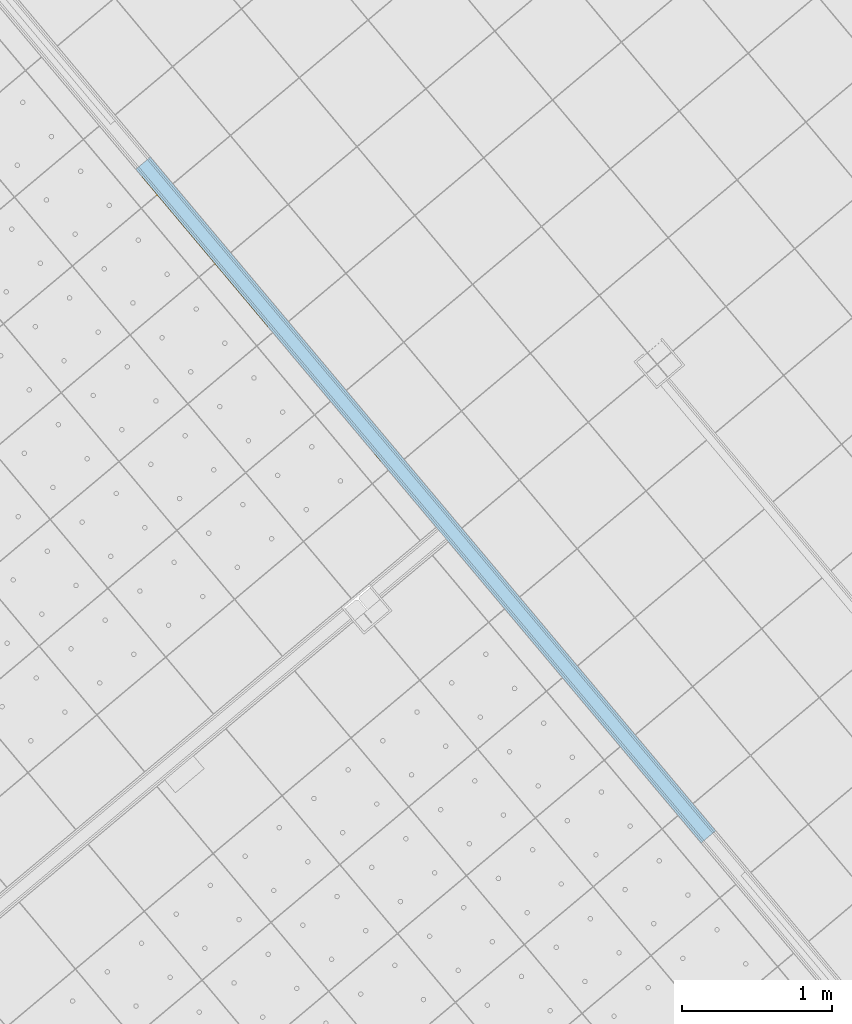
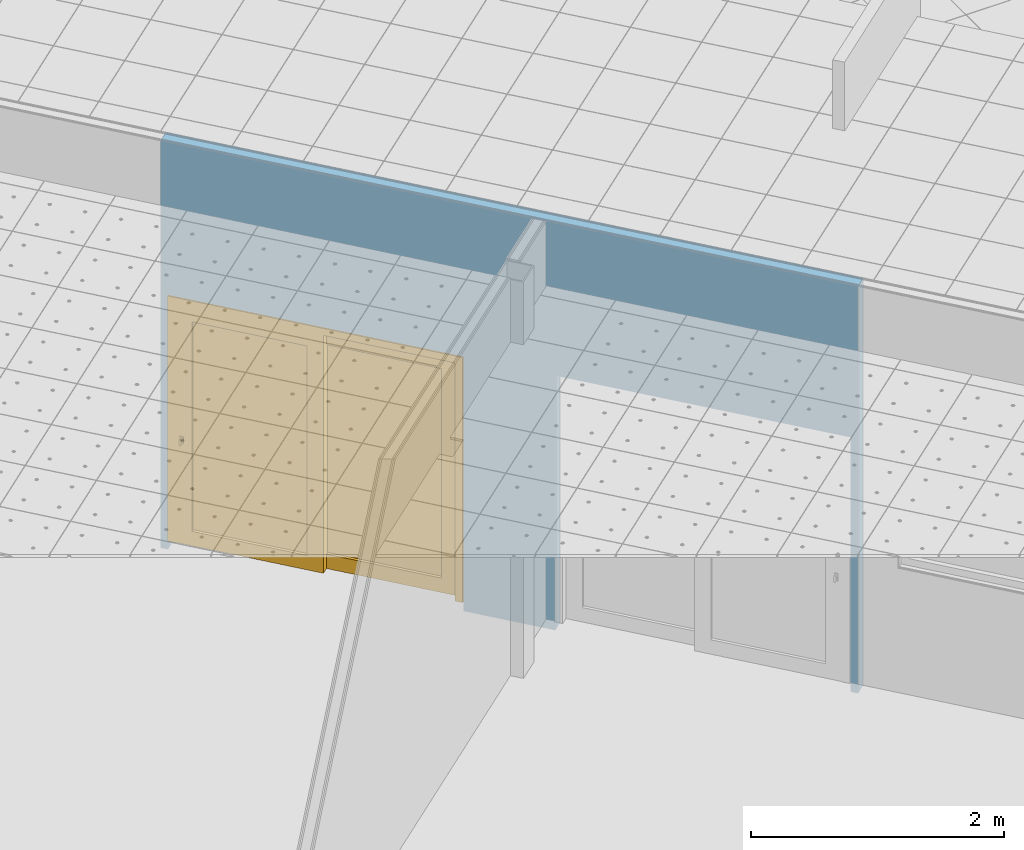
# One storey, part 42 of 321: 1 door, 2 openings, 1 element without a shape of its own, plus 5 elements that do not belong to this part.
"""IFC2X3 building model written with IfcOpenShell, lengths in millimetres."""

from ifc_helpers import new_model, entity, si_unit, converted_unit, derived_unit, money_unit, direction, frame, origin_with_axes, place, context, subcontext, project, spatial, open_shell, faceted_brep, surface_model, source, transform, mapped, material, type_object, type_shapes, element, fill, aggregate, save


model = new_model("IFC2X3")

# Units and contexts
model_context = context("Model", 3, precision=0.01, world=origin_with_axes(), true_north=direction((0.0, 1.0)))
plan_context = context("Plan", 3, precision=0.01, world=origin_with_axes(), true_north=direction((0.0, 1.0)))
body_context = subcontext(model_context, "Body", "Model", "MODEL_VIEW")
ifc_project = project(units=[si_unit("LENGTHUNIT", "METRE", prefix="MILLI"), si_unit("AREAUNIT", "SQUARE_METRE"), si_unit("VOLUMEUNIT", "CUBIC_METRE"), converted_unit("PLANEANGLEUNIT", "DEGREE", entity("IfcPlaneAngleMeasure", 0.0174532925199), si_unit("PLANEANGLEUNIT", "RADIAN"), dimensions=[0, 0, 0, 0, 0, 0, 0]), money_unit("EUR"), converted_unit("TIMEUNIT", "Year", entity("IfcTimeMeasure", 31556926.0), si_unit("TIMEUNIT", "SECOND"), dimensions=[0, 0, 1, 0, 0, 0, 0]), si_unit("MASSUNIT", "GRAM", prefix="KILO"), si_unit("THERMODYNAMICTEMPERATUREUNIT", "DEGREE_CELSIUS"), si_unit("LUMINOUSINTENSITYUNIT", "LUMEN"), si_unit("ENERGYUNIT", "JOULE", prefix="MEGA"), derived_unit("THERMALCONDUCTANCEUNIT", [(si_unit("POWERUNIT", "WATT"), 1), (si_unit("LENGTHUNIT", "METRE"), -1), (si_unit("THERMODYNAMICTEMPERATUREUNIT", "KELVIN"), -1)]), derived_unit("SPECIFICHEATCAPACITYUNIT", [(si_unit("ENERGYUNIT", "JOULE"), 1), (si_unit("MASSUNIT", "GRAM", prefix="KILO"), -1), (si_unit("THERMODYNAMICTEMPERATUREUNIT", "KELVIN"), -1)]), derived_unit("MASSDENSITYUNIT", [(si_unit("MASSUNIT", "GRAM", prefix="KILO"), 1), (si_unit("VOLUMEUNIT", "CUBIC_METRE"), -1)])], contexts=[model_context, plan_context])

# Site, building, storey
site_placement = place(None, origin_with_axes())
site = spatial("IfcSite", under=ifc_project, at=site_placement, Name="Fortuinstraat Woensdrecht", CompositionType="ELEMENT")
building_placement = place(site_placement, origin_with_axes())
building = spatial("IfcBuilding", under=site, at=building_placement, Name="IKC Fortuna", CompositionType="ELEMENT")
storey_placement = place(building_placement, frame((0.0, 0.0, 4000.0), z_axis=(0.0, 0.0, 1.0), x_axis=(1.0, 0.0, 0.0)))
storey = spatial("IfcBuildingStorey", under=building, at=storey_placement, Name="01 eerste verdieping", CompositionType="ELEMENT", Elevation=4000.0)

# Door
door_style = type_object("IfcDoorStyle", Name="DSn 25", ConstructionType="NOTDEFINED", OperationType="USERDEFINED", ParameterTakesPrecedence=False, Sizeable=False)
shared_shape = source(origin_with_axes(), body_context, "Body", "SurfaceModel", [
    faceted_brep([(-1242.5, 0.0, 0.0), (-1175.5, 0.0, 0.0), (-1175.5, -139.0, 0.0), (-1242.5, -139.0, 0.0), (-1242.5, 0.0, 2300.0), (-1175.5, 0.0, 2300.0), (-1175.5, -139.0, 2300.0), (-1242.5, -139.0, 2300.0)], [[[0, 1, 2, 3]], [[0, 4, 5, 1]], [[1, 5, 6, 2]], [[3, 2, 6, 7]], [[4, 0, 3, 7]], [[5, 4, 7, 6]]]),
    faceted_brep([(1242.5, 0.0, 0.0), (1242.5, 0.0, 2300.0), (1242.5, -139.0, 2300.0), (1242.5, -139.0, 0.0), (1175.5, 0.0, 0.0), (1175.5, 0.0, 2300.0), (1175.5, -139.0, 2300.0), (1175.5, -139.0, 0.0)], [[[0, 1, 2, 3]], [[0, 4, 5, 1]], [[1, 5, 6, 2]], [[3, 2, 6, 7]], [[4, 0, 3, 7]], [[5, 4, 7, 6]]]),
    faceted_brep([(-1242.5, 0.0, 2367.0), (-1242.5, 0.0, 2300.0), (-1242.5, -139.0, 2300.0), (-1242.5, -139.0, 2367.0), (1242.5, 0.0, 2367.0), (1242.5, 0.0, 2300.0), (1175.5, 0.0, 2300.0), (-1175.5, 0.0, 2300.0), (-1175.5, -139.0, 2300.0), (1175.5, -139.0, 2300.0), (1242.5, -139.0, 2300.0), (1242.5, -139.0, 2367.0)], [[[0, 1, 2, 3]], [[0, 4, 5, 6, 7, 1]], [[1, 7, 8, 2]], [[3, 2, 8, 9, 10, 11]], [[4, 0, 3, 11]], [[5, 4, 11, 10]], [[6, 5, 10, 9]], [[7, 6, 9, 8]]]),
    faceted_brep([(1175.5, 0.0, 139.0), (1175.5, -64.5, 139.0), (1036.5, -64.5, 139.0), (1036.5, 0.0, 139.0), (1175.5, 0.0, 2161.0), (1175.5, -64.5, 2161.0), (1036.5, -64.5, 2161.0), (1036.5, 0.0, 2161.0)], [[[0, 1, 2, 3]], [[4, 5, 1, 0]], [[1, 5, 6, 2]], [[3, 2, 6, 7]], [[0, 3, 7, 4]], [[7, 6, 5, 4]]]),
    faceted_brep([(-69.5, 0.0, 139.0), (-69.5, -64.5, 139.0), (-69.5, -64.5, 2161.0), (-69.5, 0.0, 2161.0), (69.5, 0.0, 139.0), (69.5, -64.5, 139.0), (69.5, -64.5, 2161.0), (69.5, 0.0, 2161.0)], [[[0, 1, 2, 3]], [[4, 5, 1, 0]], [[1, 5, 6, 2]], [[3, 2, 6, 7]], [[0, 3, 7, 4]], [[7, 6, 5, 4]]]),
    faceted_brep([(1175.5, 0.0, 0.0), (1175.5, -64.5, 0.0), (-69.5, -64.5, 0.0), (-69.5, 0.0, 0.0), (1175.5, 0.0, 139.0), (1175.5, -64.5, 139.0), (1036.5, -64.5, 139.0), (69.5, -64.5, 139.0), (-69.5, -64.5, 139.0), (-69.5, 0.0, 139.0), (69.5, 0.0, 139.0), (1036.5, 0.0, 139.0)], [[[0, 1, 2, 3]], [[4, 5, 1, 0]], [[1, 5, 6, 7, 8, 2]], [[3, 2, 8, 9]], [[0, 3, 9, 10, 11, 4]], [[11, 6, 5, 4]], [[10, 7, 6, 11]], [[9, 8, 7, 10]]]),
    faceted_brep([(1175.5, 0.0, 2300.0), (1175.5, -64.5, 2300.0), (1175.5, -64.5, 2161.0), (1175.5, 0.0, 2161.0), (-69.5, 0.0, 2300.0), (-69.5, -64.5, 2300.0), (-69.5, -64.5, 2161.0), (69.5, -64.5, 2161.0), (1036.5, -64.5, 2161.0), (1036.5, 0.0, 2161.0), (69.5, 0.0, 2161.0), (-69.5, 0.0, 2161.0)], [[[0, 1, 2, 3]], [[4, 5, 1, 0]], [[1, 5, 6, 7, 8, 2]], [[3, 2, 8, 9]], [[0, 3, 9, 10, 11, 4]], [[11, 6, 5, 4]], [[10, 7, 6, 11]], [[9, 8, 7, 10]]]),
    surface_model("IfcShellBasedSurfaceModel", [(1036.5, -26.25, 139.0), (69.5, -26.25, 139.0), (69.5, -26.25, 2161.0), (1036.5, -26.25, 2161.0)], [open_shell([[[0, 1, 2, 3]]])]),
    surface_model("IfcShellBasedSurfaceModel", [(1036.5, -38.25, 139.0), (1036.5, -38.25, 2161.0), (69.5, -38.25, 2161.0), (69.5, -38.25, 139.0)], [open_shell([[[0, 1, 2, 3]]])]),
    faceted_brep([(-1110.5, -134.0, 965.0), (-1110.5, -134.0, 1035.0), (-1110.5, -144.0, 1035.0), (-1110.5, -144.0, 965.0), (-1140.5, -134.0, 965.0), (-1140.5, -134.0, 1035.0), (-1140.5, -144.0, 1035.0), (-1140.5, -144.0, 965.0)], [[[0, 1, 2, 3]], [[0, 4, 5, 1]], [[1, 5, 6, 2]], [[3, 2, 6, 7]], [[4, 0, 3, 7]], [[5, 4, 7, 6]]]),
    faceted_brep([(-1124.13436775, -144.0, 1006.86549696), (-1122.82121597, -144.0, 1006.46715673), (-1121.61100837, -144.0, 1005.82028729), (-1120.55025253, -144.0, 1004.94974747), (-1119.67971271, -144.0, 1003.88899163), (-1119.03284327, -144.0, 1002.67878403), (-1118.63450304, -144.0, 1001.36563225), (-1118.5, -144.0, 1000.0), (-1118.63450304, -144.0, 998.634367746), (-1119.03284327, -144.0, 997.321215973), (-1119.67971271, -144.0, 996.111008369), (-1120.55025253, -144.0, 995.050252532), (-1121.61100837, -144.0, 994.179712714), (-1122.82121597, -144.0, 993.532843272), (-1124.13436775, -144.0, 993.134503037), (-1125.5, -144.0, 993.0), (-1126.86563225, -144.0, 993.134503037), (-1128.17878403, -144.0, 993.532843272), (-1129.38899163, -144.0, 994.179712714), (-1130.44974747, -144.0, 995.050252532), (-1131.32028729, -144.0, 996.111008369), (-1131.96715673, -144.0, 997.321215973), (-1132.36549696, -144.0, 998.634367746), (-1132.5, -144.0, 1000.0), (-1132.36549696, -144.0, 1001.36563225), (-1131.96715673, -144.0, 1002.67878403), (-1131.32028729, -144.0, 1003.88899163), (-1130.44974747, -144.0, 1004.94974747), (-1129.38899163, -144.0, 1005.82028729), (-1128.17878403, -144.0, 1006.46715673), (-1126.86563225, -144.0, 1006.86549696), (-1125.5, -144.0, 1007.0), (-1124.13436775, -159.0, 1006.86549696), (-1122.82121597, -159.0, 1006.46715673), (-1121.61100837, -159.0, 1005.82028729), (-1120.55025253, -159.0, 1004.94974747), (-1119.67971271, -159.0, 1003.88899163), (-1119.03284327, -159.0, 1002.67878403), (-1118.63450304, -159.0, 1001.36563225), (-1118.5, -159.0, 1000.0), (-1118.63450304, -159.0, 998.634367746), (-1119.03284327, -159.0, 997.321215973), (-1119.67971271, -159.0, 996.111008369), (-1120.55025253, -159.0, 995.050252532), (-1121.61100837, -159.0, 994.179712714), (-1122.82121597, -159.0, 993.532843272), (-1124.13436775, -159.0, 993.134503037), (-1125.5, -159.0, 993.0), (-1126.86563225, -159.0, 993.134503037), (-1128.17878403, -159.0, 993.532843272), (-1129.38899163, -159.0, 994.179712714), (-1130.44974747, -159.0, 995.050252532), (-1131.32028729, -159.0, 996.111008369), (-1131.96715673, -159.0, 997.321215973), (-1132.36549696, -159.0, 998.634367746), (-1132.5, -159.0, 1000.0), (-1132.36549696, -159.0, 1001.36563225), (-1131.96715673, -159.0, 1002.67878403), (-1131.32028729, -159.0, 1003.88899163), (-1130.44974747, -159.0, 1004.94974747), (-1129.38899163, -159.0, 1005.82028729), (-1128.17878403, -159.0, 1006.46715673), (-1126.86563225, -159.0, 1006.86549696), (-1125.5, -159.0, 1007.0)], [[[0, 1, 2, 3, 4, 5, 6, 7, 8, 9, 10, 11, 12, 13, 14, 15, 16, 17, 18, 19, 20, 21, 22, 23, 24, 25, 26, 27, 28, 29, 30, 31]], [[1, 0, 32, 33]], [[2, 1, 33, 34]], [[3, 2, 34, 35]], [[4, 3, 35, 36]], [[5, 4, 36, 37]], [[6, 5, 37, 38]], [[7, 6, 38, 39]], [[8, 7, 39, 40]], [[9, 8, 40, 41]], [[10, 9, 41, 42]], [[11, 10, 42, 43]], [[12, 11, 43, 44]], [[13, 12, 44, 45]], [[14, 13, 45, 46]], [[15, 14, 46, 47]], [[16, 15, 47, 48]], [[17, 16, 48, 49]], [[18, 17, 49, 50]], [[19, 18, 50, 51]], [[20, 19, 51, 52]], [[21, 20, 52, 53]], [[22, 21, 53, 54]], [[23, 22, 54, 55]], [[24, 23, 55, 56]], [[25, 24, 56, 57]], [[26, 25, 57, 58]], [[27, 26, 58, 59]], [[28, 27, 59, 60]], [[29, 28, 60, 61]], [[30, 29, 61, 62]], [[31, 30, 62, 63]], [[0, 31, 63, 32]], [[32, 63, 62, 61, 60, 59, 58, 57, 56, 55, 54, 53, 52, 51, 50, 49, 48, 47, 46, 45, 44, 43, 42, 41, 40, 39, 38, 37, 36, 35, 34, 33]]]),
    faceted_brep([(-1115.5, -159.0, 990.0), (-1115.5, -159.0, 1010.0), (-1115.5, -169.0, 1010.0), (-1115.5, -169.0, 990.0), (-1135.5, -159.0, 990.0), (-1135.5, -159.0, 1010.0), (-1135.5, -169.0, 1010.0), (-1135.5, -169.0, 990.0)], [[[0, 1, 2, 3]], [[0, 4, 5, 1]], [[1, 5, 6, 2]], [[3, 2, 6, 7]], [[4, 0, 3, 7]], [[5, 4, 7, 6]]]),
    faceted_brep([(-1115.5, -169.0, 990.0), (-1135.5, -169.0, 990.0), (-1130.5, -167.0, 965.0), (-1120.5, -167.0, 965.0), (-1115.5, -159.0, 990.0), (-1135.5, -159.0, 990.0), (-1130.5, -163.0, 965.0), (-1120.5, -163.0, 965.0)], [[[0, 1, 2, 3]], [[0, 4, 5, 1]], [[1, 5, 6, 2]], [[3, 2, 6, 7]], [[4, 0, 3, 7]], [[5, 4, 7, 6]]]),
    faceted_brep([(-1115.5, -169.0, 1010.0), (-1120.5, -167.0, 1035.0), (-1130.5, -167.0, 1035.0), (-1135.5, -169.0, 1010.0), (-1115.5, -159.0, 1010.0), (-1120.5, -163.0, 1035.0), (-1130.5, -163.0, 1035.0), (-1135.5, -159.0, 1010.0)], [[[0, 1, 2, 3]], [[4, 5, 1, 0]], [[1, 5, 6, 2]], [[3, 2, 6, 7]], [[0, 3, 7, 4]], [[7, 6, 5, 4]]]),
    faceted_brep([(-1110.5, -69.5, 965.0), (-1110.5, -59.5, 965.0), (-1110.5, -59.5, 1035.0), (-1110.5, -69.5, 1035.0), (-1140.5, -69.5, 965.0), (-1140.5, -59.5, 965.0), (-1140.5, -59.5, 1035.0), (-1140.5, -69.5, 1035.0)], [[[0, 1, 2, 3]], [[4, 5, 1, 0]], [[1, 5, 6, 2]], [[3, 2, 6, 7]], [[0, 3, 7, 4]], [[7, 6, 5, 4]]]),
    faceted_brep([(-1124.13436775, -59.5, 1006.86549696), (-1125.5, -59.5, 1007.0), (-1126.86563225, -59.5, 1006.86549696), (-1128.17878403, -59.5, 1006.46715673), (-1129.38899163, -59.5, 1005.82028729), (-1130.44974747, -59.5, 1004.94974747), (-1131.32028729, -59.5, 1003.88899163), (-1131.96715673, -59.5, 1002.67878403), (-1132.36549696, -59.5, 1001.36563225), (-1132.5, -59.5, 1000.0), (-1132.36549696, -59.5, 998.634367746), (-1131.96715673, -59.5, 997.321215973), (-1131.32028729, -59.5, 996.111008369), (-1130.44974747, -59.5, 995.050252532), (-1129.38899163, -59.5, 994.179712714), (-1128.17878403, -59.5, 993.532843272), (-1126.86563225, -59.5, 993.134503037), (-1125.5, -59.5, 993.0), (-1124.13436775, -59.5, 993.134503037), (-1122.82121597, -59.5, 993.532843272), (-1121.61100837, -59.5, 994.179712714), (-1120.55025253, -59.5, 995.050252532), (-1119.67971271, -59.5, 996.111008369), (-1119.03284327, -59.5, 997.321215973), (-1118.63450304, -59.5, 998.634367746), (-1118.5, -59.5, 1000.0), (-1118.63450304, -59.5, 1001.36563225), (-1119.03284327, -59.5, 1002.67878403), (-1119.67971271, -59.5, 1003.88899163), (-1120.55025253, -59.5, 1004.94974747), (-1121.61100837, -59.5, 1005.82028729), (-1122.82121597, -59.5, 1006.46715673), (-1124.13436775, -44.5, 1006.86549696), (-1125.5, -44.5, 1007.0), (-1126.86563225, -44.5, 1006.86549696), (-1128.17878403, -44.5, 1006.46715673), (-1129.38899163, -44.5, 1005.82028729), (-1130.44974747, -44.5, 1004.94974747), (-1131.32028729, -44.5, 1003.88899163), (-1131.96715673, -44.5, 1002.67878403), (-1132.36549696, -44.5, 1001.36563225), (-1132.5, -44.5, 1000.0), (-1132.36549696, -44.5, 998.634367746), (-1131.96715673, -44.5, 997.321215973), (-1131.32028729, -44.5, 996.111008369), (-1130.44974747, -44.5, 995.050252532), (-1129.38899163, -44.5, 994.179712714), (-1128.17878403, -44.5, 993.532843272), (-1126.86563225, -44.5, 993.134503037), (-1125.5, -44.5, 993.0), (-1124.13436775, -44.5, 993.134503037), (-1122.82121597, -44.5, 993.532843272), (-1121.61100837, -44.5, 994.179712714), (-1120.55025253, -44.5, 995.050252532), (-1119.67971271, -44.5, 996.111008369), (-1119.03284327, -44.5, 997.321215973), (-1118.63450304, -44.5, 998.634367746), (-1118.5, -44.5, 1000.0), (-1118.63450304, -44.5, 1001.36563225), (-1119.03284327, -44.5, 1002.67878403), (-1119.67971271, -44.5, 1003.88899163), (-1120.55025253, -44.5, 1004.94974747), (-1121.61100837, -44.5, 1005.82028729), (-1122.82121597, -44.5, 1006.46715673)], [[[0, 1, 2, 3, 4, 5, 6, 7, 8, 9, 10, 11, 12, 13, 14, 15, 16, 17, 18, 19, 20, 21, 22, 23, 24, 25, 26, 27, 28, 29, 30, 31]], [[0, 32, 33, 1]], [[1, 33, 34, 2]], [[2, 34, 35, 3]], [[3, 35, 36, 4]], [[4, 36, 37, 5]], [[5, 37, 38, 6]], [[6, 38, 39, 7]], [[7, 39, 40, 8]], [[8, 40, 41, 9]], [[9, 41, 42, 10]], [[10, 42, 43, 11]], [[11, 43, 44, 12]], [[12, 44, 45, 13]], [[13, 45, 46, 14]], [[14, 46, 47, 15]], [[15, 47, 48, 16]], [[16, 48, 49, 17]], [[17, 49, 50, 18]], [[18, 50, 51, 19]], [[19, 51, 52, 20]], [[20, 52, 53, 21]], [[21, 53, 54, 22]], [[22, 54, 55, 23]], [[23, 55, 56, 24]], [[24, 56, 57, 25]], [[25, 57, 58, 26]], [[26, 58, 59, 27]], [[27, 59, 60, 28]], [[28, 60, 61, 29]], [[29, 61, 62, 30]], [[30, 62, 63, 31]], [[31, 63, 32, 0]], [[32, 63, 62, 61, 60, 59, 58, 57, 56, 55, 54, 53, 52, 51, 50, 49, 48, 47, 46, 45, 44, 43, 42, 41, 40, 39, 38, 37, 36, 35, 34, 33]]]),
    faceted_brep([(-1115.5, -44.5, 990.0), (-1115.5, -34.5, 990.0), (-1115.5, -34.5, 1010.0), (-1115.5, -44.5, 1010.0), (-1135.5, -44.5, 990.0), (-1135.5, -34.5, 990.0), (-1135.5, -34.5, 1010.0), (-1135.5, -44.5, 1010.0)], [[[0, 1, 2, 3]], [[4, 5, 1, 0]], [[1, 5, 6, 2]], [[3, 2, 6, 7]], [[0, 3, 7, 4]], [[7, 6, 5, 4]]]),
    faceted_brep([(-1115.5, -34.5, 990.0), (-1120.5, -36.5, 965.0), (-1130.5, -36.5, 965.0), (-1135.5, -34.5, 990.0), (-1115.5, -44.5, 990.0), (-1120.5, -40.5, 965.0), (-1130.5, -40.5, 965.0), (-1135.5, -44.5, 990.0)], [[[0, 1, 2, 3]], [[4, 5, 1, 0]], [[1, 5, 6, 2]], [[3, 2, 6, 7]], [[0, 3, 7, 4]], [[7, 6, 5, 4]]]),
    faceted_brep([(-1115.5, -34.5, 1010.0), (-1135.5, -34.5, 1010.0), (-1130.5, -36.5, 1035.0), (-1120.5, -36.5, 1035.0), (-1115.5, -44.5, 1010.0), (-1135.5, -44.5, 1010.0), (-1130.5, -40.5, 1035.0), (-1120.5, -40.5, 1035.0)], [[[0, 1, 2, 3]], [[0, 4, 5, 1]], [[1, 5, 6, 2]], [[3, 2, 6, 7]], [[4, 0, 3, 7]], [[5, 4, 7, 6]]]),
    faceted_brep([(69.5, -69.5, 139.0), (69.5, -134.0, 139.0), (-69.5, -134.0, 139.0), (-69.5, -69.5, 139.0), (69.5, -69.5, 2161.0), (69.5, -134.0, 2161.0), (-69.5, -134.0, 2161.0), (-69.5, -69.5, 2161.0)], [[[0, 1, 2, 3]], [[4, 5, 1, 0]], [[1, 5, 6, 2]], [[3, 2, 6, 7]], [[0, 3, 7, 4]], [[7, 6, 5, 4]]]),
    faceted_brep([(-1175.5, -69.5, 139.0), (-1175.5, -134.0, 139.0), (-1175.5, -134.0, 2161.0), (-1175.5, -69.5, 2161.0), (-1036.5, -69.5, 139.0), (-1036.5, -134.0, 139.0), (-1036.5, -134.0, 2161.0), (-1036.5, -69.5, 2161.0)], [[[0, 1, 2, 3]], [[4, 5, 1, 0]], [[1, 5, 6, 2]], [[3, 2, 6, 7]], [[0, 3, 7, 4]], [[7, 6, 5, 4]]]),
    faceted_brep([(69.5, -69.5, 0.0), (69.5, -134.0, 0.0), (-1175.5, -134.0, 0.0), (-1175.5, -69.5, 0.0), (69.5, -69.5, 139.0), (69.5, -134.0, 139.0), (-69.5, -134.0, 139.0), (-1036.5, -134.0, 139.0), (-1175.5, -134.0, 139.0), (-1175.5, -69.5, 139.0), (-1036.5, -69.5, 139.0), (-69.5, -69.5, 139.0)], [[[0, 1, 2, 3]], [[4, 5, 1, 0]], [[1, 5, 6, 7, 8, 2]], [[3, 2, 8, 9]], [[0, 3, 9, 10, 11, 4]], [[11, 6, 5, 4]], [[10, 7, 6, 11]], [[9, 8, 7, 10]]]),
    faceted_brep([(69.5, -69.5, 2300.0), (69.5, -134.0, 2300.0), (69.5, -134.0, 2161.0), (69.5, -69.5, 2161.0), (-1175.5, -69.5, 2300.0), (-1175.5, -134.0, 2300.0), (-1175.5, -134.0, 2161.0), (-1036.5, -134.0, 2161.0), (-69.5, -134.0, 2161.0), (-69.5, -69.5, 2161.0), (-1036.5, -69.5, 2161.0), (-1175.5, -69.5, 2161.0)], [[[0, 1, 2, 3]], [[4, 5, 1, 0]], [[1, 5, 6, 7, 8, 2]], [[3, 2, 8, 9]], [[0, 3, 9, 10, 11, 4]], [[11, 6, 5, 4]], [[10, 7, 6, 11]], [[9, 8, 7, 10]]]),
    surface_model("IfcShellBasedSurfaceModel", [(-69.5, -95.75, 139.0), (-1036.5, -95.75, 139.0), (-1036.5, -95.75, 2161.0), (-69.5, -95.75, 2161.0)], [open_shell([[[0, 1, 2, 3]]])]),
    surface_model("IfcShellBasedSurfaceModel", [(-69.5, -107.75, 139.0), (-69.5, -107.75, 2161.0), (-1036.5, -107.75, 2161.0), (-1036.5, -107.75, 139.0)], [open_shell([[[0, 1, 2, 3]]])]),
])
type_shapes(door_style, [shared_shape])
wall_placement = place(storey_placement, frame((12856.7077015, 5400.95257994, 1360.0), z_axis=(0.0, 0.0, 1.0), x_axis=(0.642787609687, -0.766044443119, 0.0)))
opening_2_placement = place(wall_placement, frame((1305.0, 0.0, 90.0), z_axis=(0.0, 0.0, 1.0), x_axis=(1.0, 0.0, 0.0)))
door_placement = place(opening_2_placement, frame((-1242.5, 0.0, 0.0), z_axis=(0.0, 0.0, 1.0), x_axis=(1.0, 0.0, 0.0)))
door = element("IfcDoor", 1, at=door_placement, inside=storey, type_object=door_style, Name="32_Deur_h.03", ObjectType="DOOR", OverallHeight=2367.0, OverallWidth=2485.0, context=body_context, shape_type="MappedRepresentation", body=[
    mapped(shared_shape, transform((1242.5, 62.5, 0.0))),
])

# Wall, openings
wall_type = type_object("IfcWallType", Name="MS125 2.75.2A 125", PredefinedType="NOTDEFINED")
wall = element("IfcWall", 2, at=wall_placement, inside=storey, type_object=wall_type, Name="22_Wand_Binnenwand")
opening_1_placement = place(wall_placement, frame((4563.72242865, 0.0, 90.0), z_axis=(0.0, 0.0, 1.0), x_axis=(1.0, 0.0, 0.0)))
element("IfcOpeningElement", 3, at=opening_1_placement, cuts=wall, Name="32_Deur_h.03", context=body_context, shape_type="Brep", body=[
    faceted_brep([(-1242.5, 250.0, 2367.0), (-1242.5, 250.0, -90.0), (-1242.5, -125.0, -90.0), (-1242.5, -125.0, 2367.0), (1242.5, 250.0, 2367.0), (1242.5, 250.0, -90.0), (1242.5, -125.0, -90.0), (1242.5, -125.0, 2367.0)], [[[0, 1, 2, 3]], [[0, 4, 5, 1]], [[1, 5, 6, 2]], [[3, 2, 6, 7]], [[4, 0, 3, 7]], [[5, 4, 7, 6]]]),
])
opening_2 = element("IfcOpeningElement", 4, at=opening_2_placement, cuts=wall, Name="32_Deur_h.03", context=body_context, shape_type="Brep", body=[
    faceted_brep([(1242.5, -125.0, 2367.0), (1242.5, -125.0, -90.0), (1242.5, 250.0, -90.0), (1242.5, 250.0, 2367.0), (-1242.5, -125.0, 2367.0), (-1242.5, -125.0, -90.0), (-1242.5, 250.0, -90.0), (-1242.5, 250.0, 2367.0)], [[[0, 1, 2, 3]], [[0, 4, 5, 1]], [[1, 5, 6, 2]], [[3, 2, 6, 7]], [[4, 0, 3, 7]], [[5, 4, 7, 6]]]),
])

fill(opening_2, door)

# Building element part
ifc_material_1 = material(Name="Gipsplaat")
building_element_part_1_placement = place(wall_placement, origin_with_axes())
building_element_part_1 = element("IfcBuildingElementPart", 5, at=building_element_part_1_placement, material=ifc_material_1, Name="Gipsplaat", context=body_context, shape_type="Brep", body=[
    faceted_brep([(62.5, 62.5000107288, 2457.0), (62.5, 62.5000001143, 0.0), (0.0, 62.5, 0.0), (0.0, 62.5, 3930.0), (5868.7016263, 62.5000107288, 3930.0), (5868.7016263, 62.5000107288, 0.0), (5806.22242865, 62.5000106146, 0.0), (5806.22242865, 62.5000107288, 2457.0), (3321.22242865, 62.5000107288, 2457.0), (3321.22242865, 62.5000060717, 0.0), (2547.5, 62.5000046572, 0.0), (2547.5, 62.5000107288, 2457.0), (62.5, 50.0, 2457.0), (62.5, 50.0, 0.0), (0.0, 50.0, 0.0), (0.0, 50.0, 3930.0), (5868.70578677, 50.0, 3930.0), (5868.70578677, 50.0, 0.0), (5806.22242865, 50.0, 0.0), (5806.22242865, 50.0, 2457.0), (3321.22242865, 50.0, 2457.0), (3321.22242865, 50.0, 0.0), (2547.5, 50.0, 0.0), (2547.5, 50.0, 2457.0)], [[[0, 1, 2, 3, 4, 5, 6, 7, 8, 9, 10, 11]], [[1, 0, 12, 13]], [[1, 13, 14, 2]], [[14, 15, 3, 2]], [[3, 15, 16, 4]], [[16, 17, 5, 4]], [[6, 5, 17, 18]], [[6, 18, 19, 7]], [[7, 19, 20, 8]], [[8, 20, 21, 9]], [[22, 10, 9, 21]], [[11, 10, 22, 23]], [[0, 11, 23, 12]], [[23, 22, 21, 20, 19, 18, 17, 16, 15, 14, 13, 12]]]),
])

building_element_part_2_placement = place(wall_placement, origin_with_axes())
building_element_part_2 = element("IfcBuildingElementPart", 6, at=building_element_part_2_placement, material=ifc_material_1, Name="Gipsplaat", context=body_context, shape_type="Brep", body=[
    faceted_brep([(62.5, 50.0, 2457.0), (62.5, 50.0, 0.0), (0.0, 50.0, 0.0), (0.0, 50.0, 3930.0), (5868.70578677, 50.0, 3930.0), (5868.70578677, 50.0, 0.0), (5806.22242865, 50.0, 0.0), (5806.22242865, 50.0, 2457.0), (3321.22242865, 50.0, 2457.0), (3321.22242865, 50.0, 0.0), (2547.5, 50.0, 0.0), (2547.5, 50.0, 2457.0), (62.5, 37.4999968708, 2457.0), (62.5, 37.4999999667, 0.0), (0.0, 37.5, 0.0), (0.0, 37.5, 3930.0), (5868.70994725, 37.4999968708, 3930.0), (5868.70994725, 37.4999968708, 0.0), (5806.22242865, 37.4999969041, 0.0), (5806.22242865, 37.4999968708, 2457.0), (3321.22242865, 37.4999968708, 2457.0), (3321.22242865, 37.4999982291, 0.0), (2547.5, 37.4999986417, 0.0), (2547.5, 37.4999968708, 2457.0)], [[[0, 1, 2, 3, 4, 5, 6, 7, 8, 9, 10, 11]], [[1, 0, 12, 13]], [[1, 13, 14, 2]], [[14, 15, 3, 2]], [[3, 15, 16, 4]], [[16, 17, 5, 4]], [[6, 5, 17, 18]], [[6, 18, 19, 7]], [[7, 19, 20, 8]], [[8, 20, 21, 9]], [[22, 10, 9, 21]], [[11, 10, 22, 23]], [[0, 11, 23, 12]], [[23, 22, 21, 20, 19, 18, 17, 16, 15, 14, 13, 12]]]),
])

ifc_material_2 = material(Name="Isolatie - Steenwol LSW")
building_element_part_3_placement = place(wall_placement, origin_with_axes())
building_element_part_3 = element("IfcBuildingElementPart", 7, at=building_element_part_3_placement, material=ifc_material_2, Name="Isolatie - Steenwol LSW", context=body_context, shape_type="Brep", body=[
    faceted_brep([(62.5, 37.4999968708, 2457.0), (62.5, 37.4999999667, 0.0), (0.0, 37.5, 0.0), (0.0, 37.5, 3930.0), (5868.70994725, 37.4999968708, 3930.0), (5868.70994725, 37.4999968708, 0.0), (5806.22242865, 37.4999969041, 0.0), (5806.22242865, 37.4999968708, 2457.0), (3321.22242865, 37.4999968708, 2457.0), (3321.22242865, 37.4999982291, 0.0), (2547.5, 37.4999986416, 0.0), (2547.5, 37.4999968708, 2457.0), (62.5, -37.4999861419, 2457.0), (62.5, -37.4999998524, 0.0), (0.0, -37.5, 0.0), (0.0, -37.5, 3930.0), (5868.73491006, -37.4999861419, 3930.0), (5868.73491006, -37.4999861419, 0.0), (5806.22242865, -37.4999862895, 0.0), (5806.22242865, -37.4999861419, 2457.0), (3321.22242865, -37.4999861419, 2457.0), (3321.22242865, -37.4999921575, 0.0), (2547.5, -37.4999939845, 0.0), (2547.5, -37.4999861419, 2457.0)], [[[0, 1, 2, 3, 4, 5, 6, 7, 8, 9, 10, 11]], [[1, 0, 12, 13]], [[1, 13, 14, 2]], [[14, 15, 3, 2]], [[3, 15, 16, 4]], [[16, 17, 5, 4]], [[6, 5, 17, 18]], [[6, 18, 19, 7]], [[7, 19, 20, 8]], [[8, 20, 21, 9]], [[22, 10, 9, 21]], [[11, 10, 22, 23]], [[0, 11, 23, 12]], [[23, 22, 21, 20, 19, 18, 17, 16, 15, 14, 13, 12]]]),
])

building_element_part_4_placement = place(wall_placement, origin_with_axes())
building_element_part_4 = element("IfcBuildingElementPart", 8, at=building_element_part_4_placement, material=ifc_material_1, Name="Gipsplaat", context=body_context, shape_type="Brep", body=[
    faceted_brep([(62.5, -37.4999861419, 2457.0), (62.5, -37.4999998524, 0.0), (0.0, -37.5, 0.0), (0.0, -37.5, 3930.0), (5868.73491006, -37.4999861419, 3930.0), (5868.73491006, -37.4999861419, 0.0), (5806.22242865, -37.4999862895, 0.0), (5806.22242865, -37.4999861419, 2457.0), (3321.22242865, -37.4999861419, 2457.0), (3321.22242865, -37.4999921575, 0.0), (2547.5, -37.4999939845, 0.0), (2547.5, -37.4999861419, 2457.0), (62.5, -50.0, 2457.0), (62.5, -50.0, 0.0), (0.0, -50.0, 0.0), (0.0, -50.0, 3930.0), (5868.73907053, -50.0, 3930.0), (5868.73907053, -50.0, 0.0), (5806.22242865, -50.0, 0.0), (5806.22242865, -50.0, 2457.0), (3321.22242865, -50.0, 2457.0), (3321.22242865, -50.0, 0.0), (2547.5, -50.0, 0.0), (2547.5, -50.0, 2457.0)], [[[0, 1, 2, 3, 4, 5, 6, 7, 8, 9, 10, 11]], [[1, 0, 12, 13]], [[1, 13, 14, 2]], [[3, 2, 14, 15]], [[3, 15, 16, 4]], [[16, 17, 5, 4]], [[6, 5, 17, 18]], [[6, 18, 19, 7]], [[7, 19, 20, 8]], [[8, 20, 21, 9]], [[22, 10, 9, 21]], [[11, 10, 22, 23]], [[0, 11, 23, 12]], [[23, 22, 21, 20, 19, 18, 17, 16, 15, 14, 13, 12]]]),
])

building_element_part_5_placement = place(wall_placement, origin_with_axes())
building_element_part_5 = element("IfcBuildingElementPart", 9, at=building_element_part_5_placement, material=ifc_material_1, Name="Gipsplaat", context=body_context, shape_type="Brep", body=[
    faceted_brep([(62.5, -50.0, 2457.0), (62.5, -50.0, 0.0), (0.0, -50.0, 0.0), (0.0, -50.0, 3930.0), (5868.73907053, -50.0, 3930.0), (5868.73907053, -50.0, 0.0), (5806.22242865, -50.0, 0.0), (5806.22242865, -50.0, 2457.0), (3321.22242865, -50.0, 2457.0), (3321.22242865, -50.0, 0.0), (2547.5, -50.0, 0.0), (2547.5, -50.0, 2457.0), (62.5, -62.5, 2457.0), (62.5, -62.5, 0.0), (0.0, -62.5, 0.0), (0.0, -62.5, 3930.0), (5868.743231, -62.5, 3930.0), (5868.743231, -62.5, 0.0), (5806.22242865, -62.5, 0.0), (5806.22242865, -62.5, 2457.0), (3321.22242865, -62.5, 2457.0), (3321.22242865, -62.5, 0.0), (2547.5, -62.5, 0.0), (2547.5, -62.5, 2457.0)], [[[0, 1, 2, 3, 4, 5, 6, 7, 8, 9, 10, 11]], [[1, 0, 12, 13]], [[1, 13, 14, 2]], [[3, 2, 14, 15]], [[3, 15, 16, 4]], [[16, 17, 5, 4]], [[6, 5, 17, 18]], [[6, 18, 19, 7]], [[7, 19, 20, 8]], [[8, 20, 21, 9]], [[22, 10, 9, 21]], [[11, 10, 22, 23]], [[0, 11, 23, 12]], [[23, 22, 21, 20, 19, 18, 17, 16, 15, 14, 13, 12]]]),
])

aggregate(wall, [building_element_part_1, building_element_part_2, building_element_part_3, building_element_part_4, building_element_part_5])

save(model, "model.ifc")
